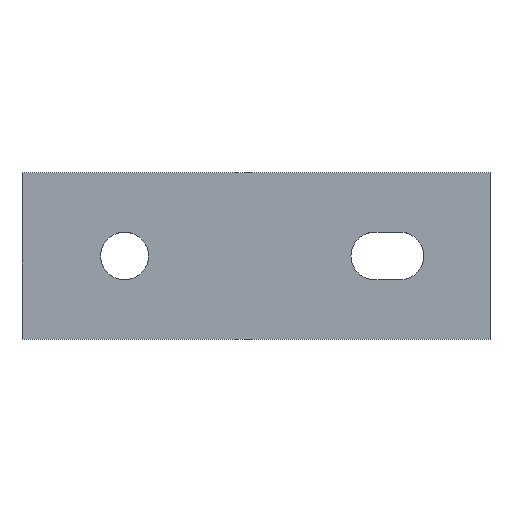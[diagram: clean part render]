
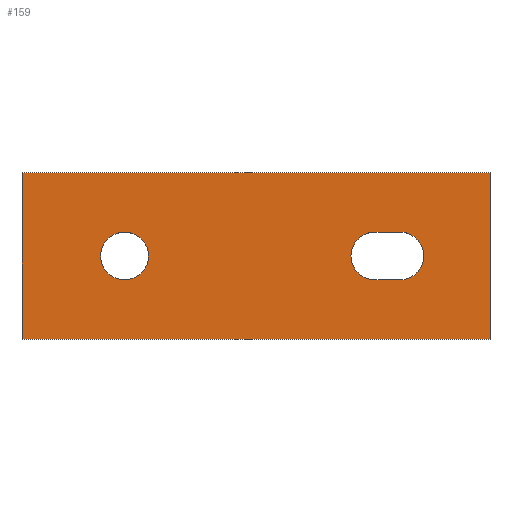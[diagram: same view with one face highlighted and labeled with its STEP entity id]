
A CAD part, top view. The second image highlights one B-rep face of the part: STEP entity #159.
In plain terms, the highlighted planar face has unit normal (0, 0, 1).
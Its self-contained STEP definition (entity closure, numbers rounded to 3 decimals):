
#32 = VERTEX_POINT('',#33);
#33 = CARTESIAN_POINT('',(0.,32.,4.));
#39 = EDGE_CURVE('',#32,#40,#42,.T.);
#40 = VERTEX_POINT('',#41);
#41 = CARTESIAN_POINT('',(0.,0.,4.));
#42 = LINE('',#43,#44);
#43 = CARTESIAN_POINT('',(0.,32.,4.));
#44 = VECTOR('',#45,1.);
#45 = DIRECTION('',(0.,-1.,0.));
#142 = VERTEX_POINT('',#143);
#143 = CARTESIAN_POINT('',(90.,0.,4.));
#149 = EDGE_CURVE('',#40,#142,#150,.T.);
#150 = LINE('',#151,#152);
#151 = CARTESIAN_POINT('',(0.,0.,4.));
#152 = VECTOR('',#153,1.);
#153 = DIRECTION('',(1.,0.,0.));
#159 = ADVANCED_FACE('',(#160,#178,#189),#225,.T.);
#160 = FACE_BOUND('',#161,.T.);
#161 = EDGE_LOOP('',(#162,#170,#171,#172));
#162 = ORIENTED_EDGE('',*,*,#163,.F.);
#163 = EDGE_CURVE('',#32,#164,#166,.T.);
#164 = VERTEX_POINT('',#165);
#165 = CARTESIAN_POINT('',(90.,32.,4.));
#166 = LINE('',#167,#168);
#167 = CARTESIAN_POINT('',(0.,32.,4.));
#168 = VECTOR('',#169,1.);
#169 = DIRECTION('',(1.,0.,0.));
#170 = ORIENTED_EDGE('',*,*,#39,.T.);
#171 = ORIENTED_EDGE('',*,*,#149,.T.);
#172 = ORIENTED_EDGE('',*,*,#173,.F.);
#173 = EDGE_CURVE('',#164,#142,#174,.T.);
#174 = LINE('',#175,#176);
#175 = CARTESIAN_POINT('',(90.,32.,4.));
#176 = VECTOR('',#177,1.);
#177 = DIRECTION('',(0.,-1.,0.));
#178 = FACE_BOUND('',#179,.T.);
#179 = EDGE_LOOP('',(#180));
#180 = ORIENTED_EDGE('',*,*,#181,.F.);
#181 = EDGE_CURVE('',#182,#182,#184,.T.);
#182 = VERTEX_POINT('',#183);
#183 = CARTESIAN_POINT('',(19.735,11.4,4.));
#184 = CIRCLE('',#185,4.6);
#185 = AXIS2_PLACEMENT_3D('',#186,#187,#188);
#186 = CARTESIAN_POINT('',(19.735,16.,4.));
#187 = DIRECTION('',(0.,0.,1.));
#188 = DIRECTION('',(0.,-1.,0.));
#189 = FACE_BOUND('',#190,.T.);
#190 = EDGE_LOOP('',(#191,#202,#210,#219));
#191 = ORIENTED_EDGE('',*,*,#192,.F.);
#192 = EDGE_CURVE('',#193,#195,#197,.T.);
#193 = VERTEX_POINT('',#194);
#194 = CARTESIAN_POINT('',(67.865,20.6,4.));
#195 = VERTEX_POINT('',#196);
#196 = CARTESIAN_POINT('',(67.865,11.4,4.));
#197 = CIRCLE('',#198,4.6);
#198 = AXIS2_PLACEMENT_3D('',#199,#200,#201);
#199 = CARTESIAN_POINT('',(67.865,16.,4.));
#200 = DIRECTION('',(0.,0.,1.));
#201 = DIRECTION('',(0.,-1.,0.));
#202 = ORIENTED_EDGE('',*,*,#203,.T.);
#203 = EDGE_CURVE('',#193,#204,#206,.T.);
#204 = VERTEX_POINT('',#205);
#205 = CARTESIAN_POINT('',(72.665,20.6,4.));
#206 = LINE('',#207,#208);
#207 = CARTESIAN_POINT('',(33.933,20.6,4.));
#208 = VECTOR('',#209,1.);
#209 = DIRECTION('',(1.,0.,0.));
#210 = ORIENTED_EDGE('',*,*,#211,.F.);
#211 = EDGE_CURVE('',#212,#204,#214,.T.);
#212 = VERTEX_POINT('',#213);
#213 = CARTESIAN_POINT('',(72.665,11.4,4.));
#214 = CIRCLE('',#215,4.6);
#215 = AXIS2_PLACEMENT_3D('',#216,#217,#218);
#216 = CARTESIAN_POINT('',(72.665,16.,4.));
#217 = DIRECTION('',(0.,0.,1.));
#218 = DIRECTION('',(0.,-1.,0.));
#219 = ORIENTED_EDGE('',*,*,#220,.F.);
#220 = EDGE_CURVE('',#195,#212,#221,.T.);
#221 = LINE('',#222,#223);
#222 = CARTESIAN_POINT('',(33.933,11.4,4.));
#223 = VECTOR('',#224,1.);
#224 = DIRECTION('',(1.,0.,0.));
#225 = PLANE('',#226);
#226 = AXIS2_PLACEMENT_3D('',#227,#228,#229);
#227 = CARTESIAN_POINT('',(0.,32.,4.));
#228 = DIRECTION('',(0.,0.,1.));
#229 = DIRECTION('',(0.,-1.,0.));
